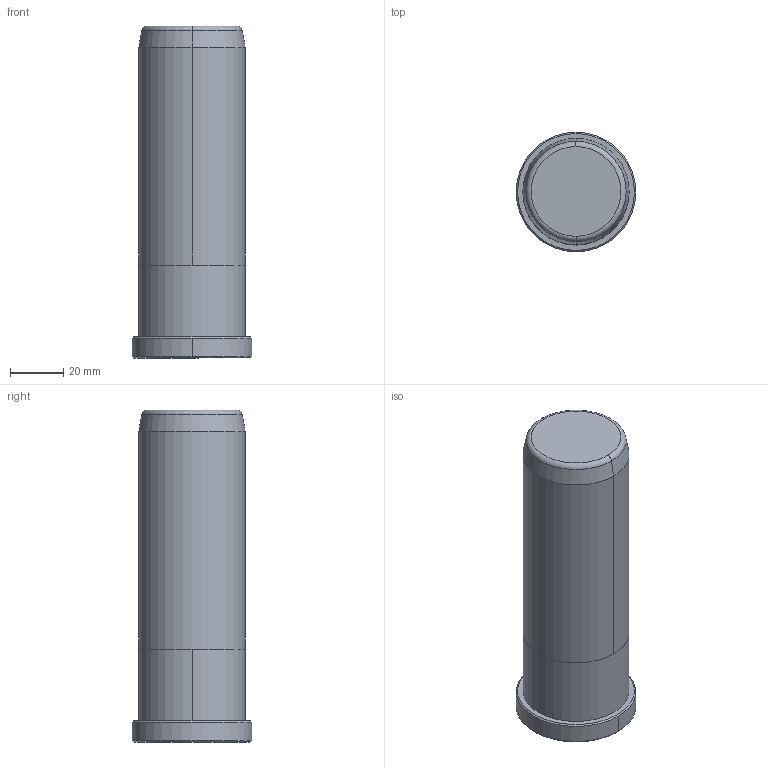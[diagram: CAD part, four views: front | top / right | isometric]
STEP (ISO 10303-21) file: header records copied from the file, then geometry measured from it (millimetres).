
FILE_DESCRIPTION((''),'2;1');
FILE_NAME('B80840125','2018-01-06T',('MANU'),(''),'PRO/ENGINEER BY PARAMETRIC TECHNOLOGY CORPORATION, 2012130','PRO/ENGINEER BY PARAMETRIC TECHNOLOGY CORPORATION, 2012130','');
FILE_SCHEMA(('CONFIG_CONTROL_DESIGN'));
Length unit declared in the file: millimetre
Products named in the file (1): B80840125
Bounding box: 45 x 45 x 125 mm (x, y, z)
Volume: 158991.7 mm3; surface area: 18674 mm2
Topology: 1 solids, 1 shells, 18 faces, 34 edges, 20 vertices
Faces by surface type: cone 6, cylinder 6, plane 4, torus 2
Entity records: 494 total; most frequent: DIRECTION 92, CARTESIAN_POINT 72, ORIENTED_EDGE 68, AXIS2_PLACEMENT_3D 40, EDGE_CURVE 34, CIRCLE 22, VERTEX_POINT 20, EDGE_LOOP 20
